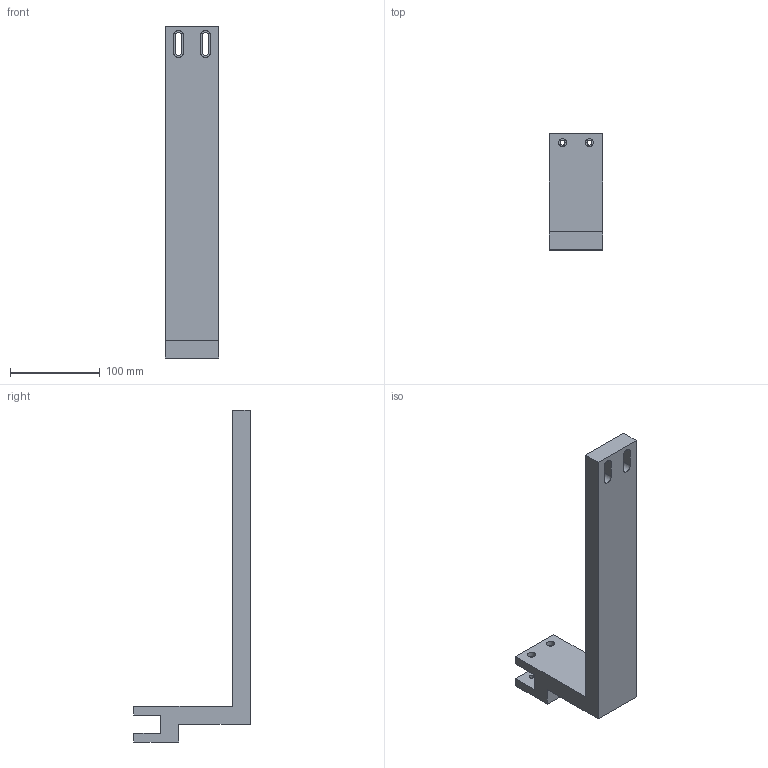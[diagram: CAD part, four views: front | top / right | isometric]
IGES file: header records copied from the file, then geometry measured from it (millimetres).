
Global section: file name: 固定件5; native system: Autodesk Inventor 2025; preprocessor: unknown; author: 97163; date: 20260318.135240; units: millimetre
Bounding box: 60 x 130 x 370 mm (x, y, z)
Volume: 563913.6 mm3; surface area: 85614.4 mm2
Topology: 1 solids, 1 shells, 44 faces, 118 edges, 82 vertices
Faces by surface type: bspline 44
